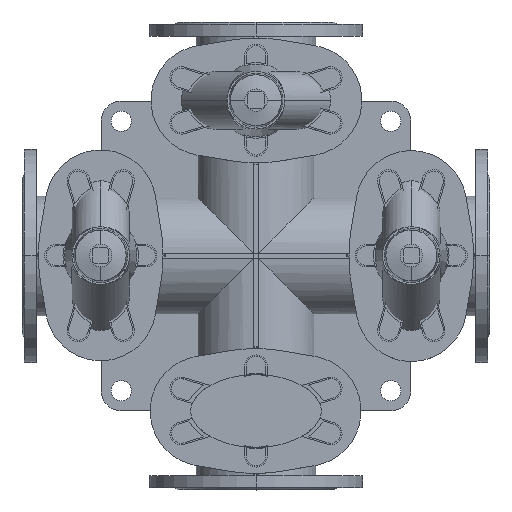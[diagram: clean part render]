
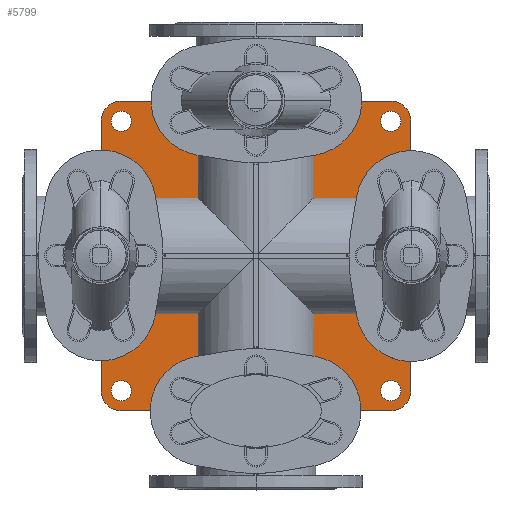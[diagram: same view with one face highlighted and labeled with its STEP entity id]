
A CAD part, top view. The second image highlights one B-rep face of the part: STEP entity #5799.
In plain terms, the highlighted planar face has unit normal (0, 0, 1).
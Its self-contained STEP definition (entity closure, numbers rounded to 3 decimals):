
#5799=ADVANCED_FACE('',(#11406,#11407,#11408,#11409,#11410),#11411,.F.);
#11406=FACE_BOUND('',#18411,.T.);
#11407=FACE_BOUND('',#18412,.T.);
#11408=FACE_BOUND('',#18413,.T.);
#11409=FACE_BOUND('',#18414,.T.);
#11410=FACE_OUTER_BOUND('',#18415,.T.);
#11411=PLANE('',#18416);
#18411=EDGE_LOOP('',(#29591,#29592));
#18412=EDGE_LOOP('',(#29593,#29594));
#18413=EDGE_LOOP('',(#29595,#29596));
#18414=EDGE_LOOP('',(#29597,#29598));
#18415=EDGE_LOOP('',(#29599,#29600,#29601,#29602,#29603,#29604,#29605,#29606));
#18416=AXIS2_PLACEMENT_3D('',#29607,#29608,#29609);
#29591=ORIENTED_EDGE('',*,*,#41626,.T.);
#29592=ORIENTED_EDGE('',*,*,#37702,.T.);
#29593=ORIENTED_EDGE('',*,*,#41627,.T.);
#29594=ORIENTED_EDGE('',*,*,#41628,.T.);
#29595=ORIENTED_EDGE('',*,*,#41629,.T.);
#29596=ORIENTED_EDGE('',*,*,#41630,.T.);
#29597=ORIENTED_EDGE('',*,*,#40445,.T.);
#29598=ORIENTED_EDGE('',*,*,#40018,.T.);
#29599=ORIENTED_EDGE('',*,*,#38634,.F.);
#29600=ORIENTED_EDGE('',*,*,#41631,.F.);
#29601=ORIENTED_EDGE('',*,*,#41632,.F.);
#29602=ORIENTED_EDGE('',*,*,#39567,.F.);
#29603=ORIENTED_EDGE('',*,*,#41018,.F.);
#29604=ORIENTED_EDGE('',*,*,#39888,.F.);
#29605=ORIENTED_EDGE('',*,*,#37730,.F.);
#29606=ORIENTED_EDGE('',*,*,#41633,.F.);
#29607=CARTESIAN_POINT('',(312.5,0.0,20.0));
#29608=DIRECTION('',(0.0,0.0,-1.0));
#29609=DIRECTION('',(-1.0,0.0,0.0));
#37702=EDGE_CURVE('',#44242,#44239,#44243,.T.);
#37730=EDGE_CURVE('',#44290,#44291,#44292,.T.);
#38634=EDGE_CURVE('',#45869,#45870,#45871,.T.);
#39567=EDGE_CURVE('',#47388,#47389,#47390,.T.);
#39888=EDGE_CURVE('',#44291,#47901,#47902,.T.);
#40018=EDGE_CURVE('',#48107,#48104,#48108,.T.);
#40445=EDGE_CURVE('',#48104,#48107,#48744,.T.);
#41018=EDGE_CURVE('',#47901,#47388,#49572,.T.);
#41626=EDGE_CURVE('',#44239,#44242,#50403,.T.);
#41627=EDGE_CURVE('',#50404,#50405,#50406,.T.);
#41628=EDGE_CURVE('',#50405,#50404,#50407,.T.);
#41629=EDGE_CURVE('',#50408,#50409,#50410,.T.);
#41630=EDGE_CURVE('',#50409,#50408,#50411,.T.);
#41631=EDGE_CURVE('',#50412,#45869,#50413,.T.);
#41632=EDGE_CURVE('',#47389,#50412,#50414,.T.);
#41633=EDGE_CURVE('',#45870,#44290,#50415,.T.);
#44239=VERTEX_POINT('',#53527);
#44242=VERTEX_POINT('',#53531);
#44243=CIRCLE('',#53532,13.5);
#44290=VERTEX_POINT('',#53593);
#44291=VERTEX_POINT('',#53594);
#44292=LINE('',#53595,#53596);
#45869=VERTEX_POINT('',#55598);
#45870=VERTEX_POINT('',#55599);
#45871=LINE('',#55600,#55601);
#47388=VERTEX_POINT('',#57544);
#47389=VERTEX_POINT('',#57545);
#47390=CIRCLE('',#57546,27.0);
#47901=VERTEX_POINT('',#58194);
#47902=CIRCLE('',#58195,27.0);
#48104=VERTEX_POINT('',#58459);
#48107=VERTEX_POINT('',#58463);
#48108=CIRCLE('',#58464,13.5);
#48744=CIRCLE('',#59286,13.5);
#49572=LINE('',#60353,#60354);
#50403=CIRCLE('',#61453,13.5);
#50404=VERTEX_POINT('',#61454);
#50405=VERTEX_POINT('',#61455);
#50406=CIRCLE('',#61456,13.5);
#50407=CIRCLE('',#61457,13.5);
#50408=VERTEX_POINT('',#61458);
#50409=VERTEX_POINT('',#61459);
#50410=CIRCLE('',#61460,13.5);
#50411=CIRCLE('',#61461,13.5);
#50412=VERTEX_POINT('',#61462);
#50413=CIRCLE('',#61463,27.0);
#50414=LINE('',#61464,#61465);
#50415=CIRCLE('',#61466,27.0);
#53527=CARTESIAN_POINT('',(146.0,180.0,20.0));
#53531=CARTESIAN_POINT('',(119.0,180.0,20.0));
#53532=AXIS2_PLACEMENT_3D('',#64844,#64845,#64846);
#53593=CARTESIAN_POINT('',(105.5,-180.0,20.0));
#53594=CARTESIAN_POINT('',(105.5,180.0,20.0));
#53595=CARTESIAN_POINT('',(105.5,-180.0,20.0));
#53596=VECTOR('',#64882,1.0);
#55598=CARTESIAN_POINT('',(492.5,-207.0,20.0));
#55599=CARTESIAN_POINT('',(132.5,-207.0,20.0));
#55600=CARTESIAN_POINT('',(492.5,-207.0,20.0));
#55601=VECTOR('',#66217,1.0);
#57544=CARTESIAN_POINT('',(492.5,207.0,20.0));
#57545=CARTESIAN_POINT('',(519.5,180.0,20.0));
#57546=AXIS2_PLACEMENT_3D('',#67529,#67530,#67531);
#58194=CARTESIAN_POINT('',(132.5,207.0,20.0));
#58195=AXIS2_PLACEMENT_3D('',#67978,#67979,#67980);
#58459=CARTESIAN_POINT('',(506.0,180.0,20.0));
#58463=CARTESIAN_POINT('',(479.0,180.0,20.0));
#58464=AXIS2_PLACEMENT_3D('',#68155,#68156,#68157);
#59286=AXIS2_PLACEMENT_3D('',#68761,#68762,#68763);
#60353=CARTESIAN_POINT('',(132.5,207.0,20.0));
#60354=VECTOR('',#69507,1.0);
#61453=AXIS2_PLACEMENT_3D('',#70241,#70242,#70243);
#61454=CARTESIAN_POINT('',(146.0,-180.0,20.0));
#61455=CARTESIAN_POINT('',(119.0,-180.0,20.0));
#61456=AXIS2_PLACEMENT_3D('',#70244,#70245,#70246);
#61457=AXIS2_PLACEMENT_3D('',#70247,#70248,#70249);
#61458=CARTESIAN_POINT('',(506.0,-180.0,20.0));
#61459=CARTESIAN_POINT('',(479.0,-180.0,20.0));
#61460=AXIS2_PLACEMENT_3D('',#70250,#70251,#70252);
#61461=AXIS2_PLACEMENT_3D('',#70253,#70254,#70255);
#61462=CARTESIAN_POINT('',(519.5,-180.0,20.0));
#61463=AXIS2_PLACEMENT_3D('',#70256,#70257,#70258);
#61464=CARTESIAN_POINT('',(519.5,180.0,20.0));
#61465=VECTOR('',#70259,1.0);
#61466=AXIS2_PLACEMENT_3D('',#70260,#70261,#70262);
#64844=CARTESIAN_POINT('',(132.5,180.0,20.0));
#64845=DIRECTION('',(0.0,0.0,-1.0));
#64846=DIRECTION('',(1.0,0.0,0.0));
#64882=DIRECTION('',(0.0,1.0,0.0));
#66217=DIRECTION('',(-1.0,0.0,0.0));
#67529=CARTESIAN_POINT('',(492.5,180.0,20.0));
#67530=DIRECTION('',(0.0,0.0,-1.0));
#67531=DIRECTION('',(-1.0,0.0,0.0));
#67978=CARTESIAN_POINT('',(132.5,180.0,20.0));
#67979=DIRECTION('',(0.0,0.0,-1.0));
#67980=DIRECTION('',(-1.0,0.0,0.0));
#68155=CARTESIAN_POINT('',(492.5,180.0,20.0));
#68156=DIRECTION('',(0.0,0.0,-1.0));
#68157=DIRECTION('',(1.0,0.0,0.0));
#68761=CARTESIAN_POINT('',(492.5,180.0,20.0));
#68762=DIRECTION('',(0.0,0.0,-1.0));
#68763=DIRECTION('',(1.0,0.0,0.0));
#69507=DIRECTION('',(1.0,0.0,0.0));
#70241=CARTESIAN_POINT('',(132.5,180.0,20.0));
#70242=DIRECTION('',(0.0,0.0,-1.0));
#70243=DIRECTION('',(1.0,0.0,0.0));
#70244=CARTESIAN_POINT('',(132.5,-180.0,20.0));
#70245=DIRECTION('',(0.0,0.0,-1.0));
#70246=DIRECTION('',(1.0,0.0,0.0));
#70247=CARTESIAN_POINT('',(132.5,-180.0,20.0));
#70248=DIRECTION('',(0.0,0.0,-1.0));
#70249=DIRECTION('',(1.0,0.0,0.0));
#70250=CARTESIAN_POINT('',(492.5,-180.0,20.0));
#70251=DIRECTION('',(0.0,0.0,-1.0));
#70252=DIRECTION('',(1.0,0.0,0.0));
#70253=CARTESIAN_POINT('',(492.5,-180.0,20.0));
#70254=DIRECTION('',(0.0,0.0,-1.0));
#70255=DIRECTION('',(1.0,0.0,0.0));
#70256=CARTESIAN_POINT('',(492.5,-180.0,20.0));
#70257=DIRECTION('',(0.0,0.0,-1.0));
#70258=DIRECTION('',(-1.0,0.0,0.0));
#70259=DIRECTION('',(0.0,-1.0,0.0));
#70260=CARTESIAN_POINT('',(132.5,-180.0,20.0));
#70261=DIRECTION('',(0.0,0.0,-1.0));
#70262=DIRECTION('',(-1.0,0.0,0.0));
